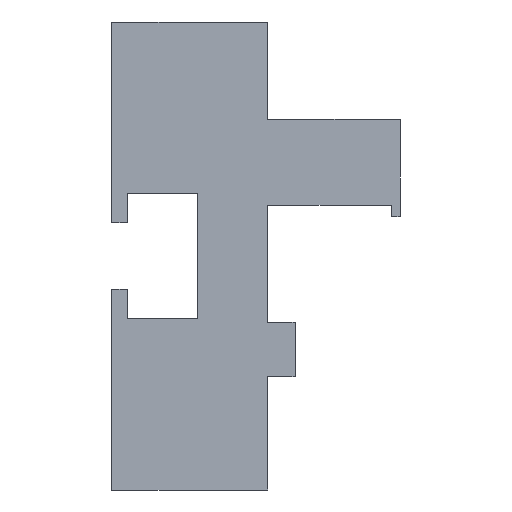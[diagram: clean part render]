
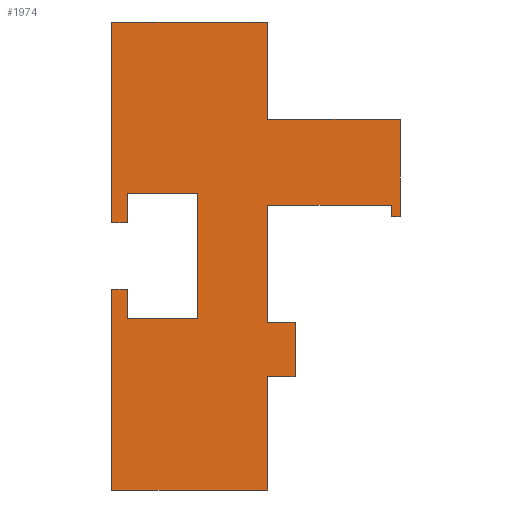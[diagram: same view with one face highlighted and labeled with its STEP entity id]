
A CAD part, left-side view. The second image highlights one B-rep face of the part: STEP entity #1974.
In plain terms, the highlighted planar face has unit normal (-0.707, -0.707, 0).
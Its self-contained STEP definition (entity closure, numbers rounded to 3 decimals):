
#1023=ORIENTED_EDGE('',*,*,#1400,.F.);
#1024=ORIENTED_EDGE('',*,*,#1404,.F.);
#1025=ORIENTED_EDGE('',*,*,#1428,.F.);
#1026=ORIENTED_EDGE('',*,*,#1429,.F.);
#1027=ORIENTED_EDGE('',*,*,#1430,.F.);
#1028=ORIENTED_EDGE('',*,*,#1431,.F.);
#1029=ORIENTED_EDGE('',*,*,#1432,.F.);
#1030=ORIENTED_EDGE('',*,*,#1433,.F.);
#1031=ORIENTED_EDGE('',*,*,#1434,.F.);
#1032=ORIENTED_EDGE('',*,*,#1435,.F.);
#1033=ORIENTED_EDGE('',*,*,#1436,.F.);
#1034=ORIENTED_EDGE('',*,*,#1437,.F.);
#1035=ORIENTED_EDGE('',*,*,#1438,.F.);
#1036=ORIENTED_EDGE('',*,*,#1439,.F.);
#1037=ORIENTED_EDGE('',*,*,#1440,.F.);
#1038=ORIENTED_EDGE('',*,*,#1441,.F.);
#1039=ORIENTED_EDGE('',*,*,#1442,.F.);
#1040=ORIENTED_EDGE('',*,*,#1443,.F.);
#1041=ORIENTED_EDGE('',*,*,#1444,.F.);
#1042=ORIENTED_EDGE('',*,*,#1445,.F.);
#1043=ORIENTED_EDGE('',*,*,#1426,.F.);
#1044=ORIENTED_EDGE('',*,*,#1390,.F.);
#1045=ORIENTED_EDGE('',*,*,#1397,.F.);
#1157=VECTOR('',#1556,1.);
#1162=VECTOR('',#1567,1.);
#1165=VECTOR('',#1572,1.);
#1168=VECTOR('',#1579,1.);
#1190=VECTOR('',#1605,1.);
#1192=VECTOR('',#1609,1.);
#1193=VECTOR('',#1610,1.);
#1194=VECTOR('',#1611,1.);
#1195=VECTOR('',#1612,1.);
#1196=VECTOR('',#1613,1.);
#1197=VECTOR('',#1614,1.);
#1198=VECTOR('',#1615,1.);
#1199=VECTOR('',#1616,1.);
#1200=VECTOR('',#1617,1.);
#1201=VECTOR('',#1618,1.);
#1202=VECTOR('',#1619,1.);
#1203=VECTOR('',#1620,1.);
#1204=VECTOR('',#1621,1.);
#1205=VECTOR('',#1622,1.);
#1206=VECTOR('',#1623,1.);
#1207=VECTOR('',#1624,1.);
#1208=VECTOR('',#1625,1.);
#1209=VECTOR('',#1626,1.);
#1242=LINE('',#1728,#1157);
#1247=LINE('',#1741,#1162);
#1250=LINE('',#1747,#1165);
#1253=LINE('',#1754,#1168);
#1275=LINE('',#1797,#1190);
#1277=LINE('',#1801,#1192);
#1278=LINE('',#1803,#1193);
#1279=LINE('',#1805,#1194);
#1280=LINE('',#1807,#1195);
#1281=LINE('',#1809,#1196);
#1282=LINE('',#1811,#1197);
#1283=LINE('',#1813,#1198);
#1284=LINE('',#1815,#1199);
#1285=LINE('',#1817,#1200);
#1286=LINE('',#1819,#1201);
#1287=LINE('',#1821,#1202);
#1288=LINE('',#1823,#1203);
#1289=LINE('',#1825,#1204);
#1290=LINE('',#1827,#1205);
#1291=LINE('',#1829,#1206);
#1292=LINE('',#1831,#1207);
#1293=LINE('',#1833,#1208);
#1294=LINE('',#1834,#1209);
#1326=VERTEX_POINT('',#1724);
#1328=VERTEX_POINT('',#1727);
#1332=VERTEX_POINT('',#1738);
#1334=VERTEX_POINT('',#1744);
#1337=VERTEX_POINT('',#1752);
#1356=VERTEX_POINT('',#1796);
#1357=VERTEX_POINT('',#1800);
#1358=VERTEX_POINT('',#1802);
#1359=VERTEX_POINT('',#1804);
#1360=VERTEX_POINT('',#1806);
#1361=VERTEX_POINT('',#1808);
#1362=VERTEX_POINT('',#1810);
#1363=VERTEX_POINT('',#1812);
#1364=VERTEX_POINT('',#1814);
#1365=VERTEX_POINT('',#1816);
#1366=VERTEX_POINT('',#1818);
#1367=VERTEX_POINT('',#1820);
#1368=VERTEX_POINT('',#1822);
#1369=VERTEX_POINT('',#1824);
#1370=VERTEX_POINT('',#1826);
#1371=VERTEX_POINT('',#1828);
#1372=VERTEX_POINT('',#1830);
#1373=VERTEX_POINT('',#1832);
#1390=EDGE_CURVE('',#1326,#1328,#1242,.T.);
#1397=EDGE_CURVE('',#1332,#1326,#1247,.T.);
#1400=EDGE_CURVE('',#1334,#1332,#1250,.T.);
#1404=EDGE_CURVE('',#1337,#1334,#1253,.T.);
#1426=EDGE_CURVE('',#1328,#1356,#1275,.T.);
#1428=EDGE_CURVE('',#1357,#1337,#1277,.T.);
#1429=EDGE_CURVE('',#1358,#1357,#1278,.T.);
#1430=EDGE_CURVE('',#1359,#1358,#1279,.T.);
#1431=EDGE_CURVE('',#1360,#1359,#1280,.T.);
#1432=EDGE_CURVE('',#1361,#1360,#1281,.T.);
#1433=EDGE_CURVE('',#1362,#1361,#1282,.T.);
#1434=EDGE_CURVE('',#1363,#1362,#1283,.T.);
#1435=EDGE_CURVE('',#1364,#1363,#1284,.T.);
#1436=EDGE_CURVE('',#1365,#1364,#1285,.T.);
#1437=EDGE_CURVE('',#1366,#1365,#1286,.T.);
#1438=EDGE_CURVE('',#1367,#1366,#1287,.T.);
#1439=EDGE_CURVE('',#1368,#1367,#1288,.T.);
#1440=EDGE_CURVE('',#1369,#1368,#1289,.T.);
#1441=EDGE_CURVE('',#1370,#1369,#1290,.T.);
#1442=EDGE_CURVE('',#1371,#1370,#1291,.T.);
#1443=EDGE_CURVE('',#1372,#1371,#1292,.T.);
#1444=EDGE_CURVE('',#1373,#1372,#1293,.T.);
#1445=EDGE_CURVE('',#1356,#1373,#1294,.T.);
#1483=EDGE_LOOP('',(#1023,#1024,#1025,#1026,#1027,#1028,#1029,#1030,#1031,
#1032,#1033,#1034,#1035,#1036,#1037,#1038,#1039,#1040,#1041,#1042,#1043,
#1044,#1045));
#1516=FACE_BOUND('',#1483,.T.);
#1556=DIRECTION('',(0.,0.,25.75));
#1567=DIRECTION('',(-2.,2.,0.));
#1572=DIRECTION('',(0.,0.,-3.75));
#1579=DIRECTION('',(-9.,9.,0.));
#1605=DIRECTION('',(20.,-20.,0.));
#1607=DIRECTION('',(-0.707,-0.707,0.));
#1608=DIRECTION('',(-0.707,0.707,0.));
#1609=DIRECTION('',(0.,0.,16.));
#1610=DIRECTION('',(9.,-9.,0.));
#1611=DIRECTION('',(0.,0.,-3.75));
#1612=DIRECTION('',(2.,-2.,0.));
#1613=DIRECTION('',(0.,0.,25.75));
#1614=DIRECTION('',(-20.,20.,0.));
#1615=DIRECTION('',(0.,0.,-14.5));
#1616=DIRECTION('',(-3.504,3.504,0.));
#1617=DIRECTION('',(0.,0.,-7.));
#1618=DIRECTION('',(3.504,-3.504,0.));
#1619=DIRECTION('',(0.,0.,-15.007));
#1620=DIRECTION('',(-15.861,15.861,0.));
#1621=DIRECTION('',(0.,0.,1.5));
#1622=DIRECTION('',(-1.139,1.139,0.));
#1623=DIRECTION('',(0.,0.,-1.5));
#1624=DIRECTION('',(0.,0.,-10.993));
#1625=DIRECTION('',(17.,-17.,0.));
#1626=DIRECTION('',(0.,0.,-12.5));
#1724=CARTESIAN_POINT('',(0.,0.,4.25));
#1727=CARTESIAN_POINT('',(0.,0.,30.));
#1728=CARTESIAN_POINT('',(0.,0.,4.25));
#1738=CARTESIAN_POINT('',(2.,-2.,4.25));
#1741=CARTESIAN_POINT('',(2.,-2.,4.25));
#1744=CARTESIAN_POINT('',(2.,-2.,8.));
#1747=CARTESIAN_POINT('',(2.,-2.,8.));
#1752=CARTESIAN_POINT('',(11.,-11.,8.));
#1754=CARTESIAN_POINT('',(11.,-11.,8.));
#1796=CARTESIAN_POINT('',(20.,-20.,30.));
#1797=CARTESIAN_POINT('',(0.,0.,30.));
#1799=CARTESIAN_POINT('',(2.,-2.,8.));
#1800=CARTESIAN_POINT('',(11.,-11.,-8.));
#1801=CARTESIAN_POINT('',(11.,-11.,-8.));
#1802=CARTESIAN_POINT('',(2.,-2.,-8.));
#1803=CARTESIAN_POINT('',(2.,-2.,-8.));
#1804=CARTESIAN_POINT('',(2.,-2.,-4.25));
#1805=CARTESIAN_POINT('',(2.,-2.,-4.25));
#1806=CARTESIAN_POINT('',(0.,0.,-4.25));
#1807=CARTESIAN_POINT('',(0.,0.,-4.25));
#1808=CARTESIAN_POINT('',(0.,0.,-30.));
#1809=CARTESIAN_POINT('',(0.,0.,-30.));
#1810=CARTESIAN_POINT('',(20.,-20.,-30.));
#1811=CARTESIAN_POINT('',(20.,-20.,-30.));
#1812=CARTESIAN_POINT('',(20.,-20.,-15.5));
#1813=CARTESIAN_POINT('',(20.,-20.,-15.5));
#1814=CARTESIAN_POINT('',(23.504,-23.504,-15.5));
#1815=CARTESIAN_POINT('',(23.504,-23.504,-15.5));
#1816=CARTESIAN_POINT('',(23.504,-23.504,-8.5));
#1817=CARTESIAN_POINT('',(23.504,-23.504,-8.5));
#1818=CARTESIAN_POINT('',(20.,-20.,-8.5));
#1819=CARTESIAN_POINT('',(20.,-20.,-8.5));
#1820=CARTESIAN_POINT('',(20.,-20.,6.507));
#1821=CARTESIAN_POINT('',(20.,-20.,6.507));
#1822=CARTESIAN_POINT('',(35.861,-35.861,6.507));
#1823=CARTESIAN_POINT('',(35.861,-35.861,6.507));
#1824=CARTESIAN_POINT('',(35.861,-35.861,5.007));
#1825=CARTESIAN_POINT('',(35.861,-35.861,5.007));
#1826=CARTESIAN_POINT('',(37.,-37.,5.007));
#1827=CARTESIAN_POINT('',(37.,-37.,5.007));
#1828=CARTESIAN_POINT('',(37.,-37.,6.507));
#1829=CARTESIAN_POINT('',(37.,-37.,6.507));
#1830=CARTESIAN_POINT('',(37.,-37.,17.5));
#1831=CARTESIAN_POINT('',(37.,-37.,17.5));
#1832=CARTESIAN_POINT('',(20.,-20.,17.5));
#1833=CARTESIAN_POINT('',(20.,-20.,17.5));
#1834=CARTESIAN_POINT('',(20.,-20.,30.));
#1908=AXIS2_PLACEMENT_3D('',#1799,#1607,#1608);
#1945=PLANE('',#1908);
#1974=ADVANCED_FACE('',(#1516),#1945,.T.);
